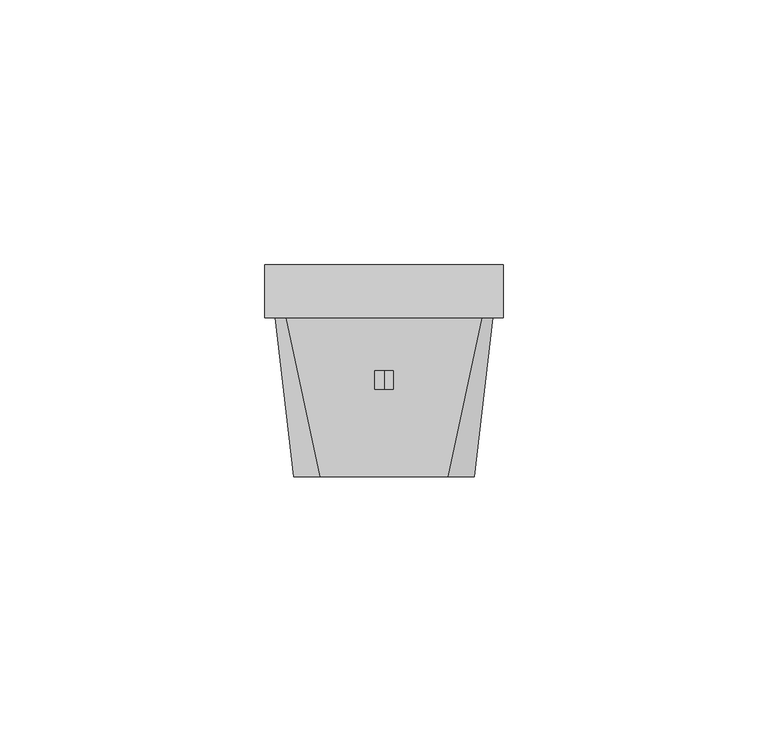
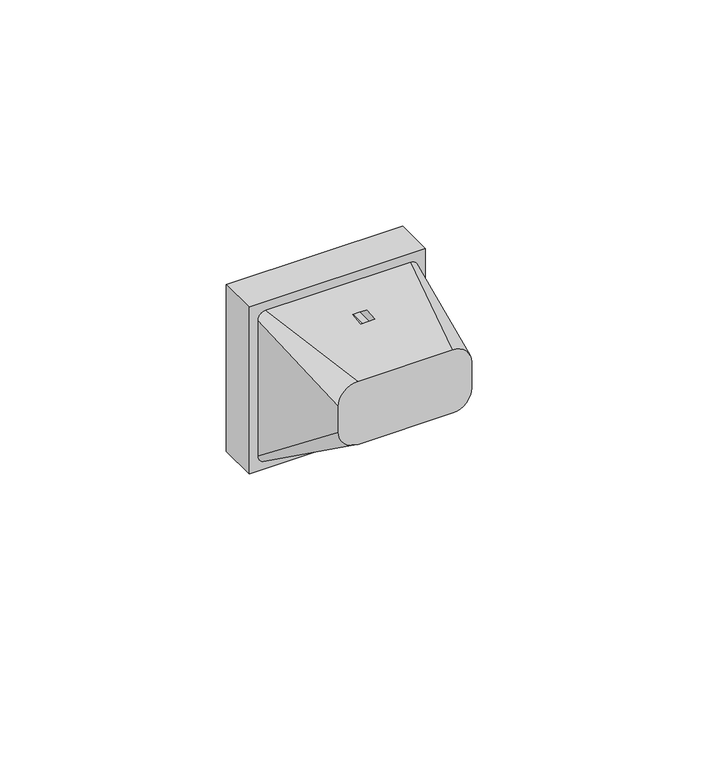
"""IFC4 building model written with IfcOpenShell, lengths in millimetres: proxy geometry, IEK_Skandy_Механизм розетки 230В : USB A+C_SK-R13B."""

from ifc_helpers import new_model, si_unit, frame, origin, place, context, project, spatial, polyline, circle_curve, outline, extrude, source, transform, mapped, element, save
from ifc_brep_helpers import plane_surface, revolved_surface, spline_surface, advanced_brep


def electrical_fixtures_95d1e48e(model_context):
    return source(origin(), model_context, "Body", "SolidModel", [
        extrude(outline(polyline([(8.2114458, 8.332744), (15.2772832, 8.332744), (15.2772832, 1.9), (8.2114458, 1.9), (8.2114458, 8.332744)])), frame((0.0, 0.0, -0.4946588), z_axis=(0.0, 0.0, 1.0), x_axis=(1.0, 0.0, 0.0)), (0.0, 0.0, 1.0), 0.9893176),
        advanced_brep(
        [(-22.5, 10.0, 22.5), (22.5, 10.0, 22.5), (22.5, 10.0, -22.5), (-22.5, 10.0, -22.5), (-18.243706, 10.0, 2.8384323), (-18.243706, 10.0, -3.1615677), (-4.7443645, 10.0, -3.1615677), (-4.7443645, 10.0, 2.8384323), (15.3158803, 10.0, -1.5), (15.3158803, 10.0, 1.5), (8.274965, 10.0, 1.5), (8.274965, 10.0, -1.5), (-22.5, 0.0, 22.5), (-22.5, 0.0, -22.5), (22.5, 0.0, -22.5), (22.5, 0.0, 22.5), (-18.243706, 1.865818, 2.8384323), (-4.7443645, 1.865818, 2.8384323), (-4.7443645, 1.865818, -3.1615677), (-18.243706, 1.865818, -3.1615677), (15.3158803, 1.865818, 1.5), (15.3158803, 1.865818, -1.5), (8.274965, 1.865818, -1.5), (8.274965, 1.865818, 1.5)],
        [
            (0, 1),
            (1, 2),
            (2, 3),
            (3, 0),
            (4, 5),
            (5, 6),
            (6, 7),
            (7, 4),
            (8, 9, circle_curve(frame((15.3158803, 10.0, 0.0), z_axis=(0.0, -1.0, 0.0), x_axis=(0.0, 0.0, -1.0)), 1.5)),
            (9, 10),
            (10, 11, circle_curve(frame((8.274965, 10.0, 0.0), z_axis=(0.0, -1.0, 0.0), x_axis=(0.0, 0.0, -1.0)), 1.5)),
            (11, 8),
            (12, 13),
            (13, 14),
            (14, 15),
            (15, 12),
            (3, 13),
            (12, 0),
            (2, 14),
            (1, 15),
            (16, 17),
            (17, 18),
            (18, 19),
            (19, 16),
            (19, 5),
            (4, 16),
            (18, 6),
            (17, 7),
            (20, 21, circle_curve(frame((15.3158803, 1.865818, 0.0), z_axis=(0.0, 1.0, 0.0), x_axis=(0.0, 0.0, -1.0)), 1.5)),
            (21, 22),
            (22, 23, circle_curve(frame((8.274965, 1.865818, 0.0), z_axis=(0.0, 1.0, 0.0), x_axis=(0.0, 0.0, -1.0)), 1.5)),
            (23, 20),
            (20, 9),
            (8, 21),
            (11, 22),
            (10, 23),
        ],
        [
            plane_surface(frame((-22.5, 10.0, -22.5), z_axis=(0.0, 1.0, 0.0), x_axis=(0.0, 0.0, 1.0))),
            plane_surface(frame((-22.5, 0.0, -22.5), z_axis=(0.0, -1.0, 0.0), x_axis=(0.0, 0.0, -1.0))),
            plane_surface(frame((-22.5, 0.0, 22.5), z_axis=(-1.0, 0.0, 0.0), x_axis=(0.0, 1.0, 0.0))),
            plane_surface(frame((-22.5, 0.0, -22.5), z_axis=(0.0, 0.0, -1.0), x_axis=(0.0, 1.0, 0.0))),
            plane_surface(frame((22.5, 0.0, -22.5), z_axis=(1.0, 0.0, 0.0), x_axis=(0.0, 1.0, 0.0))),
            plane_surface(frame((22.5, 0.0, 22.5), z_axis=(0.0, 0.0, 1.0), x_axis=(0.0, 1.0, 0.0))),
            plane_surface(frame((-4.7443645, 1.865818, 2.8384323), z_axis=(0.0, 1.0, 0.0), x_axis=(-1.0, 0.0, 0.0))),
            plane_surface(frame((-18.243706, 10.0, -3.1615677), z_axis=(1.0, 0.0, 0.0), x_axis=(0.0, -1.0, 0.0))),
            plane_surface(frame((-4.7443645, 10.0, -3.1615677), z_axis=(0.0, 0.0, 1.0), x_axis=(0.0, -1.0, 0.0))),
            plane_surface(frame((-4.7443645, 10.0, 2.8384323), z_axis=(-1.0, 0.0, 0.0), x_axis=(0.0, -1.0, 0.0))),
            plane_surface(frame((-18.243706, 10.0, 2.8384323), z_axis=(0.0, 0.0, -1.0), x_axis=(0.0, -1.0, 0.0))),
            plane_surface(frame((15.3158803, 1.865818, -1.5), z_axis=(0.0, 1.0, 0.0), x_axis=(1.0, 0.0, 0.0))),
            revolved_surface(polyline([(15.3158803, 10.0, -1.5), (15.3158803, 1.865818, -1.5)]), (15.3158803, 1.865818, 0.0), (0.0, 1.0, 0.0)),
            plane_surface(frame((15.3158803, 10.0, -1.5), z_axis=(0.0, 0.0, 1.0), x_axis=(0.0, -1.0, 0.0))),
            revolved_surface(polyline([(8.274965, 10.0, -1.5), (8.274965, 1.865818, -1.5)]), (8.274965, 1.865818, 0.0), (0.0, 1.0, 0.0)),
            plane_surface(frame((8.274965, 10.0, 1.5), z_axis=(0.0, 0.0, -1.0), x_axis=(0.0, -1.0, 0.0))),
        ],
        [
            (0, [[1, 2, 3, 4], [5, 6, 7, 8], [9, 10, 11, 12]]),
            (1, [[13, 14, 15, 16]]),
            (2, [[-4, 17, -13, 18]]),
            (3, [[-3, 19, -14, -17]]),
            (4, [[-2, 20, -15, -19]]),
            (5, [[-1, -18, -16, -20]]),
            (6, [[21, 22, 23, 24]]),
            (7, [[-24, 25, -5, 26]]),
            (8, [[-23, 27, -6, -25]]),
            (9, [[-22, 28, -7, -27]]),
            (10, [[-21, -26, -8, -28]]),
            (11, [[29, 30, 31, 32]]),
            (12, [[-29, 33, -9, 34]]),
            (13, [[-30, -34, -12, 35]]),
            (14, [[-31, -35, -11, 36]]),
            (15, [[-32, -36, -10, -33]]),
        ],
    ),
        extrude(outline(polyline([(-16.0629243, 8.332744), (-14.9097787, 8.332744), (-14.9097787, 1.9), (-16.0629243, 1.9), (-16.0629243, 8.332744)])), frame((0.0, 0.0, -0.6072496), z_axis=(0.0, 0.0, 1.0), x_axis=(1.0, 0.0, 0.0)), (0.0, 0.0, 1.0), 0.9632194),
        extrude(outline(polyline([(-13.5348744, 8.332744), (-12.3817288, 8.332744), (-12.3817288, 1.9), (-13.5348744, 1.9), (-13.5348744, 8.332744)])), frame((0.0, 0.0, -0.6072496), z_axis=(0.0, 0.0, 1.0), x_axis=(1.0, 0.0, 0.0)), (0.0, 0.0, 1.0), 0.9632194),
        extrude(outline(polyline([(-11.0629243, 8.332744), (-9.9097787, 8.332744), (-9.9097787, 1.9), (-11.0629243, 1.9), (-11.0629243, 8.332744)])), frame((0.0, 0.0, -0.6072496), z_axis=(0.0, 0.0, 1.0), x_axis=(1.0, 0.0, 0.0)), (0.0, 0.0, 1.0), 0.9632194),
        extrude(outline(polyline([(-8.5348744, 8.332744), (-7.3817288, 8.332744), (-7.3817288, 1.9), (-8.5348744, 1.9), (-8.5348744, 8.332744)])), frame((0.0, 0.0, -0.6072496), z_axis=(0.0, 0.0, 1.0), x_axis=(1.0, 0.0, 0.0)), (0.0, 0.0, 1.0), 0.9632194),
        extrude(outline(polyline([(-6.205143, 1.865818), (-17.5, 1.865818), (-17.5, 8.6493558), (-6.205143, 8.6493558), (-6.205143, 1.865818)])), frame((0.0, 0.0, -0.9635751), z_axis=(0.0, 0.0, 1.0), x_axis=(1.0, 0.0, 0.0)), (0.0, 0.0, 1.0), 1.1632949),
        advanced_brep(
        [(-12.0, -30.0, 17.0), (-17.0, -30.0, 12.0), (-17.0, -30.0, 5.0), (-12.0, -30.0, 0.0), (12.0, -30.0, 0.0), (17.0, -30.0, 5.0), (17.0, -30.0, 12.0), (12.0, -30.0, 17.0), (-18.5, 0.0, 20.5), (18.5, 0.0, 20.5), (20.5, 0.0, 18.5), (20.5, 0.0, -18.5), (18.5, 0.0, -20.5), (-18.5, 0.0, -20.5), (-20.5, 0.0, -18.5), (-20.5, 0.0, 18.5), (6.3904783, 0.0, 0.0), (11.8753617, 0.0, 0.0), (-3.0105286, 0.0, 0.0), (3.0105286, 0.0, 0.0), (-11.8753617, 0.0, 0.0), (-6.3904783, 0.0, 0.0), (1.7917908, 0.0, -19.3280847), (1.7917908, 0.0, -16.8280847), (0.0, 0.0, -16.8280847), (-1.7917908, 0.0, -16.8280847), (-1.7917908, 0.0, -19.3280847), (0.0, 0.0, -19.3280847), (1.7917908, 0.0, 19.3280847), (0.0, 0.0, 19.3280847), (-1.7917908, 0.0, 19.3280847), (-1.7917908, 0.0, 16.8280847), (0.0, 0.0, 16.8280847), (1.7917908, 0.0, 16.8280847), (1.7917908, -13.4962918, 18.9254326), (-1.7917908, -13.4962918, 18.9254326), (-1.7917908, -10.0449886, 19.3280847), (0.0, -10.0449886, 19.3280847), (1.7917908, -10.0449886, 19.3280847), (1.7917908, -5.3735346, -16.8280847), (1.7917908, -1.7149981, -19.3280847), (0.0, -1.7149981, -19.3280847), (-1.7917908, -1.7149981, -19.3280847), (-1.7917908, -5.3735346, -16.8280847), (0.0, -5.3735346, -16.8280847), (6.3904783, -13.4962918, 0.0), (11.8753617, -13.4962918, 0.0), (-3.0105286, -13.4962918, 0.0), (3.0105286, -13.4962918, 0.0), (-11.8753617, -13.4962918, 0.0), (-6.3904783, -13.4962918, 0.0), (1.7917908, -13.4962918, 16.8280847), (0.0, -13.4962918, 16.8280847), (-1.7917908, -13.4962918, 16.8280847)],
        [
            (0, 1, circle_curve(frame((-12.0, -30.0, 12.0), z_axis=(0.0, -1.0, 0.0), x_axis=(1.0, 0.0, 0.0)), 5.0)),
            (1, 2),
            (2, 3, circle_curve(frame((-12.0, -30.0, 5.0), z_axis=(0.0, -1.0, 0.0), x_axis=(1.0, 0.0, 0.0)), 5.0)),
            (3, 4),
            (4, 5, circle_curve(frame((12.0, -30.0, 5.0), z_axis=(0.0, -1.0, 0.0), x_axis=(1.0, 0.0, 0.0)), 5.0)),
            (5, 6),
            (6, 7, circle_curve(frame((12.0, -30.0, 12.0), z_axis=(0.0, -1.0, 0.0), x_axis=(1.0, 0.0, 0.0)), 5.0)),
            (7, 0),
            (8, 9),
            (9, 10, circle_curve(frame((18.5, 0.0, 18.5), z_axis=(0.0, 1.0, 0.0), x_axis=(1.0, 0.0, 0.0)), 2.0)),
            (10, 11),
            (11, 12, circle_curve(frame((18.5, 0.0, -18.5), z_axis=(0.0, 1.0, 0.0), x_axis=(1.0, 0.0, 0.0)), 2.0)),
            (12, 13),
            (13, 14, circle_curve(frame((-18.5, 0.0, -18.5), z_axis=(0.0, 1.0, 0.0), x_axis=(1.0, 0.0, 0.0)), 2.0)),
            (14, 15),
            (15, 8, circle_curve(frame((-18.5, 0.0, 18.5), z_axis=(0.0, 1.0, 0.0), x_axis=(1.0, 0.0, 0.0)), 2.0)),
            (16, 17, circle_curve(frame((9.13292, 0.0, 0.0), z_axis=(0.0, -1.0, 0.0), x_axis=(1.0, 0.0, 0.0)), 2.7424417)),
            (17, 16, circle_curve(frame((9.13292, 0.0, 0.0), z_axis=(0.0, -1.0, 0.0), x_axis=(1.0, 0.0, 0.0)), 2.7424417)),
            (18, 19, circle_curve(frame((0.0, 0.0, 0.0), z_axis=(0.0, -1.0, 0.0), x_axis=(1.0, 0.0, 0.0)), 3.0105286)),
            (19, 18, circle_curve(frame((0.0, 0.0, 0.0), z_axis=(0.0, -1.0, 0.0), x_axis=(1.0, 0.0, 0.0)), 3.0105286)),
            (20, 21, circle_curve(frame((-9.13292, 0.0, 0.0), z_axis=(0.0, -1.0, 0.0), x_axis=(1.0, 0.0, 0.0)), 2.7424417)),
            (21, 20, circle_curve(frame((-9.13292, 0.0, 0.0), z_axis=(0.0, -1.0, 0.0), x_axis=(1.0, 0.0, 0.0)), 2.7424417)),
            (22, 23),
            (23, 24),
            (24, 25),
            (25, 26),
            (26, 27),
            (27, 22),
            (28, 29),
            (29, 30),
            (30, 31),
            (31, 32),
            (32, 33),
            (33, 28),
            (7, 9),
            (8, 0),
            (34, 35),
            (35, 36),
            (36, 37),
            (37, 38),
            (38, 34),
            (6, 10),
            (5, 11),
            (4, 12),
            (3, 13),
            (39, 40),
            (40, 41),
            (41, 42),
            (42, 43),
            (43, 44),
            (44, 39),
            (2, 14),
            (1, 15),
            (45, 46, circle_curve(frame((9.13292, -13.4962918, 0.0), z_axis=(0.0, 1.0, 0.0), x_axis=(1.0, 0.0, 0.0)), 2.7424417)),
            (46, 45, circle_curve(frame((9.13292, -13.4962918, 0.0), z_axis=(0.0, 1.0, 0.0), x_axis=(1.0, 0.0, 0.0)), 2.7424417)),
            (47, 48, circle_curve(frame((0.0, -13.4962918, 0.0), z_axis=(0.0, 1.0, 0.0), x_axis=(1.0, 0.0, 0.0)), 3.0105286)),
            (48, 47, circle_curve(frame((0.0, -13.4962918, 0.0), z_axis=(0.0, 1.0, 0.0), x_axis=(1.0, 0.0, 0.0)), 3.0105286)),
            (49, 50, circle_curve(frame((-9.13292, -13.4962918, 0.0), z_axis=(0.0, 1.0, 0.0), x_axis=(1.0, 0.0, 0.0)), 2.7424417)),
            (50, 49, circle_curve(frame((-9.13292, -13.4962918, 0.0), z_axis=(0.0, 1.0, 0.0), x_axis=(1.0, 0.0, 0.0)), 2.7424417)),
            (51, 52),
            (52, 53),
            (53, 35),
            (34, 51),
            (46, 17),
            (16, 45),
            (48, 19),
            (18, 47),
            (50, 21),
            (20, 49),
            (28, 38),
            (37, 29),
            (36, 30),
            (53, 31),
            (52, 32),
            (51, 33),
            (22, 40),
            (39, 23),
            (44, 24),
            (43, 25),
            (42, 26),
            (41, 27),
        ],
        [
            plane_surface(frame((0.0, -30.0, 8.5), z_axis=(0.0, -1.0, 0.0), x_axis=(-1.0, 0.0, 0.0))),
            plane_surface(frame((0.0, 0.0, 0.0), z_axis=(0.0, 1.0, 0.0), x_axis=(-1.0, 0.0, 0.0))),
            plane_surface(frame((0.0, 0.0, 20.5), z_axis=(0.0, -0.11588069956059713, 0.9932631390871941), x_axis=(-1.0, 0.0, 0.0))),
            spline_surface(2, 1, [[(20.5, 0.0, 18.5), (17.0, -30.0, 12.0)], [(20.5, 0.0, 20.5), (17.0, -30.0, 17.0)], [(18.5, 0.0, 20.5), (12.0, -30.0, 17.0)]], [3, 3], [2, 2], [0.0, 1.0], [0.0, 1.0], weights=[[1.0, 1.0], [0.7071067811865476, 0.7071067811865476], [1.0, 1.0]]),
            plane_surface(frame((20.5, 0.0, 0.0), z_axis=(0.993263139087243, -0.11588069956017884, 0.0), x_axis=(0.0, 0.0, 1.0))),
            spline_surface(2, 1, [[(18.5, 0.0, -20.5), (12.0, -30.0, 0.0)], [(20.5, 0.0, -20.5), (17.0, -30.0, 0.0)], [(20.5, 0.0, -18.5), (17.0, -30.0, 5.0)]], [3, 3], [2, 2], [0.0, 1.0], [0.0, 1.0], weights=[[1.0, 1.0], [0.7071067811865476, 0.7071067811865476], [1.0, 1.0]]),
            plane_surface(frame((0.0, 0.0, -20.5), z_axis=(0.0, -0.5641905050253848, -0.8256446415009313), x_axis=(1.0, 0.0, 0.0))),
            spline_surface(2, 1, [[(-20.5, 0.0, -18.5), (-17.0, -30.0, 5.0)], [(-20.5, 0.0, -20.5), (-17.0, -30.0, 0.0)], [(-18.5, 0.0, -20.5), (-12.0, -30.0, 0.0)]], [3, 3], [2, 2], [0.0, 1.0], [0.0, 1.0], weights=[[1.0, 1.0], [0.7071067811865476, 0.7071067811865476], [1.0, 1.0]]),
            plane_surface(frame((-20.5, 0.0, 0.0), z_axis=(-0.9932631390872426, -0.11588069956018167, 0.0), x_axis=(0.0, 0.0, -1.0))),
            spline_surface(2, 1, [[(-18.5, 0.0, 20.5), (-12.0, -30.0, 17.0)], [(-20.5, 0.0, 20.5), (-17.0, -30.0, 17.0)], [(-20.5, 0.0, 18.5), (-17.0, -30.0, 12.0)]], [3, 3], [2, 2], [0.0, 1.0], [0.0, 1.0], weights=[[1.0, 1.0], [0.7071067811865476, 0.7071067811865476], [1.0, 1.0]]),
            plane_surface(frame((11.8753617, -13.4962918, 0.0), z_axis=(0.0, 1.0, 0.0), x_axis=(0.0, 0.0, 1.0))),
            revolved_surface(polyline([(11.875361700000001, -13.4962918, 0.0), (11.875361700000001, 0.0, 0.0)]), (9.13292, 0.0, 0.0), (0.0, -1.0, 0.0)),
            revolved_surface(polyline([(3.0105286, -13.4962918, 0.0), (3.0105286, 0.0, 0.0)]), (0.0, -2.0, 0.0), (0.0, -1.0, 0.0)),
            revolved_surface(polyline([(-6.3904783, -13.4962918, 0.0), (-6.3904783, 0.0, 0.0)]), (-9.13292, -2.0, 0.0), (0.0, -1.0, 0.0)),
            plane_surface(frame((1.7917908, -13.4962918, 19.3280847), z_axis=(0.0, 0.0, -1.0), x_axis=(0.0, 1.0, 0.0))),
            plane_surface(frame((0.0, -13.4962918, 19.3280847), z_axis=(0.0, 0.0, -1.0), x_axis=(0.0, 1.0, 0.0))),
            plane_surface(frame((-1.7917908, -13.4962918, 19.3280847), z_axis=(1.0, 0.0, 0.0), x_axis=(0.0, 1.0, 0.0))),
            plane_surface(frame((-1.7917908, -13.4962918, 16.8280847), z_axis=(0.0, 0.0, 1.0), x_axis=(0.0, 1.0, 0.0))),
            plane_surface(frame((0.0, -13.4962918, 16.8280847), z_axis=(0.0, 0.0, 1.0), x_axis=(0.0, 1.0, 0.0))),
            plane_surface(frame((1.7917908, -13.4962918, 16.8280847), z_axis=(-1.0, 0.0, 0.0), x_axis=(0.0, 1.0, 0.0))),
            plane_surface(frame((1.7917908, -13.4962918, -19.3280847), z_axis=(-1.0, 0.0, 0.0), x_axis=(0.0, 1.0, 0.0))),
            plane_surface(frame((1.7917908, -13.4962918, -16.8280847), z_axis=(0.0, 0.0, -1.0), x_axis=(0.0, 1.0, 0.0))),
            plane_surface(frame((0.0, -13.4962918, -16.8280847), z_axis=(0.0, 0.0, -1.0), x_axis=(0.0, 1.0, 0.0))),
            plane_surface(frame((-1.7917908, -13.4962918, -16.8280847), z_axis=(1.0, 0.0, 0.0), x_axis=(0.0, 1.0, 0.0))),
            plane_surface(frame((-1.7917908, -13.4962918, -19.3280847), z_axis=(0.0, 0.0, 1.0), x_axis=(0.0, 1.0, 0.0))),
            plane_surface(frame((0.0, -13.4962918, -19.3280847), z_axis=(0.0, 0.0, 1.0), x_axis=(0.0, 1.0, 0.0))),
        ],
        [
            (0, [[1, 2, 3, 4, 5, 6, 7, 8]]),
            (1, [[9, 10, 11, 12, 13, 14, 15, 16], [17, 18], [19, 20], [21, 22], [23, 24, 25, 26, 27, 28], [29, 30, 31, 32, 33, 34]]),
            (2, [[-8, 35, -9, 36], [37, 38, 39, 40, 41]]),
            (3, [[-7, 42, -10, -35]]),
            (4, [[-6, 43, -11, -42]]),
            (5, [[-5, 44, -12, -43]]),
            (6, [[-4, 45, -13, -44], [46, 47, 48, 49, 50, 51]]),
            (7, [[-3, 52, -14, -45]]),
            (8, [[-2, 53, -15, -52]]),
            (9, [[-1, -36, -16, -53]]),
            (10, [[54, 55]]),
            (10, [[56, 57]]),
            (10, [[58, 59]]),
            (10, [[60, 61, 62, -37, 63]]),
            (11, [[-55, 64, -17, 65]]),
            (11, [[-54, -65, -18, -64]]),
            (12, [[-57, 66, -19, 67]]),
            (12, [[-56, -67, -20, -66]]),
            (13, [[-59, 68, -21, 69]]),
            (13, [[-58, -69, -22, -68]]),
            (14, [[70, -40, 71, -29]]),
            (15, [[-71, -39, 72, -30]]),
            (16, [[73, -31, -72, -38, -62]]),
            (17, [[-61, 74, -32, -73]]),
            (18, [[-60, 75, -33, -74]]),
            (19, [[-75, -63, -41, -70, -34]]),
            (20, [[76, -46, 77, -23]]),
            (21, [[-77, -51, 78, -24]]),
            (22, [[-78, -50, 79, -25]]),
            (23, [[-79, -49, 80, -26]]),
            (24, [[-80, -48, 81, -27]]),
            (25, [[-76, -28, -81, -47]]),
        ],
    ),
    ])


if __name__ == "__main__":
    model = new_model("IFC4")
    model_context = context("Model", 3, world=origin())
    ifc_project = project(units=[si_unit("LENGTHUNIT", "METRE", prefix="MILLI")], contexts=[model_context])
    site = spatial("IfcSite", under=ifc_project)
    building = spatial("IfcBuilding", under=site)
    placement = place(None, origin())
    electrical_fixtures_shape = electrical_fixtures_95d1e48e(model_context)
    element("IfcBuildingElementProxy", 1, Name="IEK_Skandy_Механизм розетки 230В : USB A+C_SK-R13B", ObjectType="IEK_Skandy_Механизм розетки 230В : USB A+C_SK-R13B", at=placement, inside=building, context=model_context, shape_type="MappedRepresentation", body=[
        mapped(electrical_fixtures_shape, transform((0.0, 0.0, 0.0), x_axis=(1.0, 0.0, 0.0), y_axis=(0.0, 1.0, 0.0), z_axis=(0.0, 0.0, 1.0))),
    ])
    save(model, "model.ifc")
